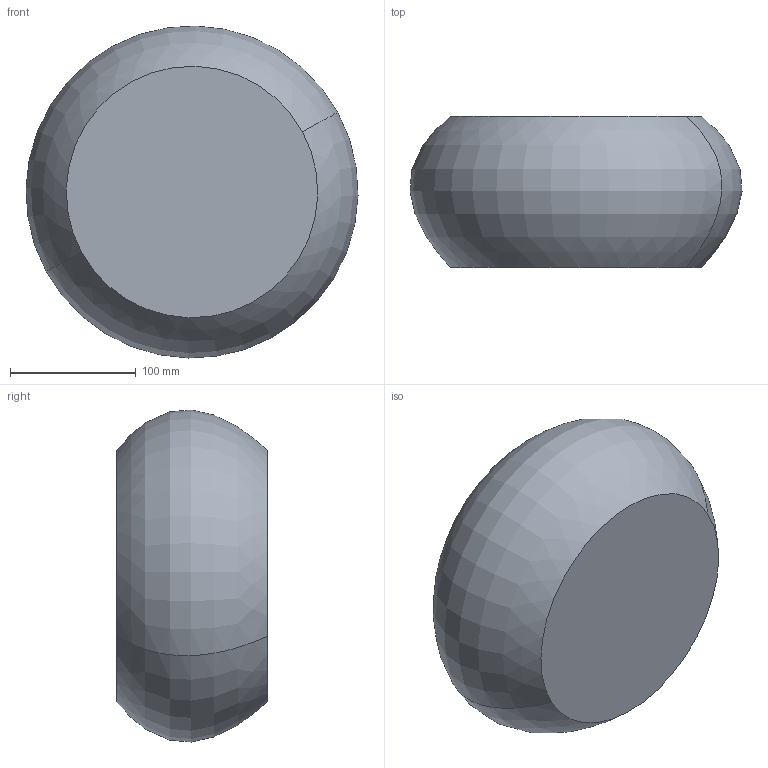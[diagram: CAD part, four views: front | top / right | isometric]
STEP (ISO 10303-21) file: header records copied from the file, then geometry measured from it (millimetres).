
FILE_DESCRIPTION(('CATIA V5 STEP Exchange'),'2;1');
FILE_NAME('C:\_Andres\UNIVERSIDAD\IQS\ASIGNATURAS\DAO\EXF\EXF-15161c\1original\Giménez_Álvarez-Sarandés_Ej10-decora_v10.stp','2016-03-04T22:24:12+00:00',('none'),('none'),'CATIA Version 5 Release 20 SP 1 (IN-10)','CATIA V5 STEP AP203','none');
FILE_SCHEMA(('CONFIG_CONTROL_DESIGN'));
Length unit declared in the file: millimetre
Products named in the file (1): Giménez_Álvarez-Sarandés_Ej10-decora_v10
Bounding box: 264.05 x 120 x 264.05 mm (x, y, z)
Volume: 5597247.9 mm3; surface area: 168856.2 mm2
Topology: 1 solids, 1 shells, 4 faces, 6 edges, 4 vertices
Faces by surface type: revolution 2, plane 2
Entity records: 166 total; most frequent: CARTESIAN_POINT 50, DIRECTION 12, ORIENTED_EDGE 12, AXIS2_PLACEMENT_3D 8, EDGE_CURVE 6, ADVANCED_FACE 4, B_SPLINE_CURVE_WITH_KNOTS 4, CC_DESIGN_PERSON_AND_ORGANIZATION_ASSIGNMENT 4
